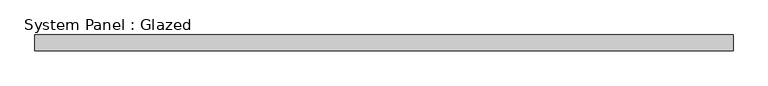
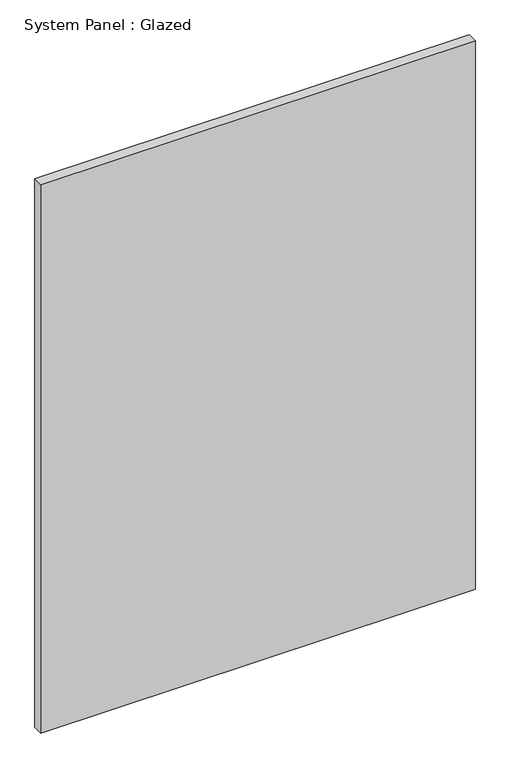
"""IFC4 building model written with IfcOpenShell, lengths in millimetres: plate geometry, System Panel : Glazed."""

from ifc_helpers import new_model, si_unit, origin, origin_with_axes, place, context, project, spatial, polyline, outline, extrude, source, transform, mapped, element, save


def system_panel_glazed_dc791129(model_context):
    return source(origin(), model_context, "Body", "SweptSolid", [
        extrude(outline(polyline([(557.2125, 19.05), (-557.2125, 19.05), (-557.2125, 44.45), (557.2125, 44.45), (557.2125, 19.05)])), origin_with_axes(), (0.0, 0.0, 1.0), 1485.9),
    ])


if __name__ == "__main__":
    model = new_model("IFC4")
    model_context = context("Model", 3, world=origin())
    ifc_project = project(units=[si_unit("LENGTHUNIT", "METRE", prefix="MILLI")], contexts=[model_context])
    site = spatial("IfcSite", under=ifc_project)
    building = spatial("IfcBuilding", under=site)
    placement = place(None, origin())
    system_panel_glazed_shape = system_panel_glazed_dc791129(model_context)
    element("IfcPlate", 1, ObjectType="System Panel : Glazed", at=placement, inside=building, context=model_context, shape_type="MappedRepresentation", body=[
        mapped(system_panel_glazed_shape, transform((0.0, 0.0, 0.0), x_axis=(1.0, 0.0, 0.0), y_axis=(0.0, 1.0, 0.0), z_axis=(0.0, 0.0, 1.0))),
    ])
    save(model, "model.ifc")
